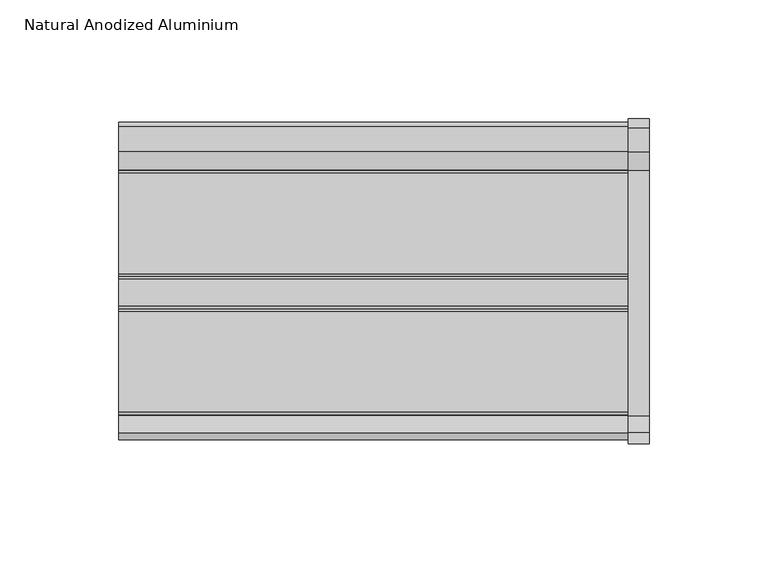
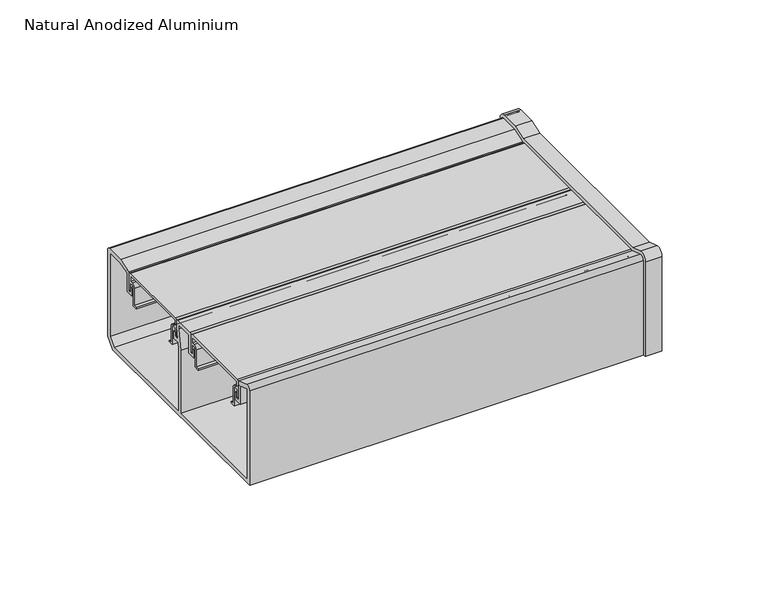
"""IFC4 building model written with IfcOpenShell, lengths in millimetres: proxy geometry, Electrical_Installations_Hager_GBA-Flat-Lid-End-Cap : Natural Anodized Aluminium."""

from ifc_helpers import new_model, si_unit, point, frame, frame_2d, origin, place, context, project, spatial, polyline, circle_curve, trimmed, segment, composite_curve, outline, extrude, source, transform, mapped, element, save
from ifc_brep_helpers import plane_surface, cylinder_surface, revolved_surface, advanced_brep


def natural_anodized_aluminium_06e3204e(model_context):
    return source(origin(), model_context, "Body", "SolidModel", [
        extrude(outline(composite_curve([segment(trimmed(circle_curve(frame_2d((-49.8914345, 39.6343363)), 5.8656637), [point((-55.5085432, 41.3237445))], [point((-49.8914345, 45.5))], False, "CARTESIAN"), True, "CONTINUOUS"), segment(polyline([(-49.8914345, 45.5), (43.4631366, 45.5)]), True, "CONTINUOUS"), segment(trimmed(circle_curve(frame_2d((43.4631366, 39.5252885)), 5.9747115), [point((43.4631366, 45.5))], [point((49.1782923, 41.2671763))], False, "CARTESIAN"), True, "CONTINUOUS"), segment(trimmed(circle_curve(frame_2d((-128.3197107, -12.8313689)), 185.5591379), [point((49.1782923, 41.2671763))], [point((56.7151603, 1.1074319))], False, "CARTESIAN"), True, "CONTINUOUS"), segment(trimmed(circle_curve(frame_2d((55.6880142, 1.0300563)), 1.0300563), [point((56.7151603, 1.1074319))], [point((55.6880142, 0.0))], False, "CARTESIAN"), True, "CONTINUOUS"), segment(polyline([(55.6880142, 0.0), (-62.1861095, 0.0)]), True, "CONTINUOUS"), segment(trimmed(circle_curve(frame_2d((-62.1861095, 0.9434111)), 0.9434111), [point((-62.1861095, 0.0))], [point((-63.1263922, 1.0201774))], False, "CARTESIAN"), True, "CONTINUOUS"), segment(trimmed(circle_curve(frame_2d((131.2639828, -14.8501783)), 195.0371403), [point((-63.1263922, 1.0201774))], [point((-55.5085432, 41.3237445))], False, "CARTESIAN"), True, "CONTINUOUS")], self_intersect=False)), frame((217.0009036, 0.0, 0.0), z_axis=(1.0, 0.0, 0.0), x_axis=(0.0, 1.0, 0.0)), (0.0, 0.0, 1.0), 5.5),
        advanced_brep(
        [(223.661619, 68.3826134, 5.0), (223.661619, 68.3826134, 54.4464817), (223.661619, 64.629095, 58.2), (223.661619, 54.3382065, 58.2), (223.661619, 46.6439977, 55.7), (223.661619, -56.7371553, 55.7), (223.661619, -63.8534471, 58.0122234), (223.661619, -68.7173866, 54.4783645), (223.661619, -68.7173866, 0.0), (223.661619, -67.2173866, 0.0), (223.661619, -67.2173866, 54.4740947), (223.661619, -64.3129118, 56.5843192), (223.661619, -56.974732, 54.2), (223.661619, 46.8815743, 54.2), (223.661619, 54.5757832, 56.7), (223.661619, 64.676444, 56.7), (223.661619, 66.8826134, 54.4938306), (223.661619, 66.8826134, 5.2469728), (223.661619, 61.6356406, 0.0), (223.661619, 63.3826134, 0.0), (214.661619, 68.3826134, 5.0), (214.661619, 63.3826134, 0.0), (214.661619, -68.7173866, 0.0), (214.661619, -68.7173866, 54.4783645), (214.661619, -63.8534471, 58.0122234), (214.661619, -56.7371553, 55.7), (214.661619, 46.6439977, 55.7), (214.661619, 54.3382065, 58.2), (214.661619, 64.629095, 58.2), (214.661619, 68.3826134, 54.4464817), (217.0009036, 68.3826134, 5.0), (217.0009036, 68.3826134, 54.4464817), (217.0009036, 64.629095, 58.2), (217.0009036, 54.3382065, 58.2), (217.0009036, 46.6439977, 55.7), (217.0009036, -56.7371553, 55.7), (217.0009036, -63.8534471, 58.0122234), (217.0009036, -68.7173866, 54.4783645), (217.0009036, 61.6356406, 0.0), (217.0009036, -67.2173866, 0.0), (217.0009036, -67.2173866, 54.4740947), (217.0009036, -64.3129118, 56.5843192), (217.0009036, -56.974732, 54.2), (217.0009036, 46.8815743, 54.2), (217.0009036, 54.5757832, 56.7), (217.0009036, 64.676444, 56.7), (217.0009036, 66.8826134, 54.4938306), (217.0009036, 66.8826134, 5.2469728)],
        [
            (0, 1),
            (1, 2, circle_curve(frame((223.661619, 64.629095, 54.4464817), z_axis=(1.0, 0.0, 0.0), x_axis=(0.0, -1.0, 0.0)), 3.7535183)),
            (2, 3),
            (3, 4),
            (4, 5),
            (5, 6),
            (6, 7, circle_curve(frame((223.661619, -65.0016675, 54.4783645), z_axis=(1.0, 0.0, 0.0), x_axis=(0.0, -1.0, 0.0)), 3.7157191)),
            (7, 8),
            (8, 9),
            (9, 10),
            (10, 11, circle_curve(frame((223.661619, -64.9985653, 54.4740947), z_axis=(-1.0, 0.0, 0.0), x_axis=(0.0, -1.0, 0.0)), 2.2188213)),
            (11, 12),
            (12, 13),
            (13, 14),
            (14, 15),
            (15, 16, circle_curve(frame((223.661619, 64.676444, 54.4938306), z_axis=(-1.0, 0.0, 0.0), x_axis=(0.0, -1.0, 0.0)), 2.2061694)),
            (16, 17),
            (17, 18),
            (18, 19),
            (19, 0),
            (20, 21),
            (21, 22),
            (22, 23),
            (23, 24, circle_curve(frame((214.661619, -65.0016675, 54.4783645), z_axis=(-1.0, 0.0, 0.0), x_axis=(0.0, -1.0, 0.0)), 3.7157191)),
            (24, 25),
            (25, 26),
            (26, 27),
            (27, 28),
            (28, 29, circle_curve(frame((214.661619, 64.629095, 54.4464817), z_axis=(-1.0, 0.0, 0.0), x_axis=(0.0, -1.0, 0.0)), 3.7535183)),
            (29, 20),
            (0, 30),
            (30, 20),
            (29, 31),
            (31, 1),
            (28, 32),
            (32, 2),
            (27, 33),
            (33, 3),
            (26, 34),
            (34, 4),
            (25, 35),
            (35, 5),
            (24, 36),
            (36, 6),
            (23, 37),
            (37, 7),
            (22, 8),
            (21, 19),
            (18, 38),
            (38, 39),
            (39, 9),
            (39, 40),
            (40, 10),
            (40, 41, circle_curve(frame((217.0009036, -64.9985653, 54.4740947), z_axis=(-1.0, 0.0, 0.0), x_axis=(0.0, -1.0, 0.0)), 2.2188213)),
            (41, 11),
            (41, 42),
            (42, 12),
            (42, 43),
            (43, 13),
            (43, 44),
            (44, 14),
            (44, 45),
            (45, 15),
            (45, 46, circle_curve(frame((217.0009036, 64.676444, 54.4938306), z_axis=(-1.0, 0.0, 0.0), x_axis=(0.0, -1.0, 0.0)), 2.2061694)),
            (46, 16),
            (46, 47),
            (47, 17),
            (47, 38),
        ],
        [
            plane_surface(frame((223.661619, 0.0, 0.0), z_axis=(1.0, 0.0, 0.0), x_axis=(0.0, 0.0, 1.0))),
            plane_surface(frame((214.661619, 0.0, 0.0), z_axis=(-1.0, 0.0, 0.0), x_axis=(0.0, 0.0, 1.0))),
            plane_surface(frame((223.661619, 68.3826134, 5.0), z_axis=(0.0, 1.0, 0.0), x_axis=(-1.0, 0.0, 0.0))),
            cylinder_surface(frame((223.661619, 64.629095, 54.4464817), z_axis=(1.0, 0.0, 0.0), x_axis=(0.0, -1.0, 0.0)), 3.7535183),
            plane_surface(frame((223.661619, 64.629095, 58.2), z_axis=(0.0, 0.0, 1.0), x_axis=(-1.0, 0.0, 0.0))),
            plane_surface(frame((223.661619, 54.3382065, 58.2), z_axis=(0.0, -0.30901699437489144, 0.9510565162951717), x_axis=(-1.0, 0.0, 0.0))),
            plane_surface(frame((223.661619, 46.6439977, 55.7), z_axis=(0.0, 0.0, 1.0), x_axis=(-1.0, 0.0, 0.0))),
            plane_surface(frame((223.661619, -56.7371553, 55.7), z_axis=(0.0, 0.30901699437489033, 0.9510565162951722), x_axis=(-1.0, 0.0, 0.0))),
            cylinder_surface(frame((223.661619, -65.0016675, 54.4783645), z_axis=(1.0, 0.0, 0.0), x_axis=(0.0, -1.0, 0.0)), 3.7157191),
            plane_surface(frame((223.661619, -68.7173866, 54.4783645), z_axis=(0.0, -1.0, 0.0), x_axis=(-1.0, 0.0, 0.0))),
            plane_surface(frame((223.661619, -68.7173866, 0.0), z_axis=(0.0, 0.0, -1.0), x_axis=(-1.0, 0.0, 0.0))),
            plane_surface(frame((223.661619, -67.2173866, 0.0), z_axis=(0.0, 1.0, 0.0), x_axis=(-1.0, 0.0, 0.0))),
            revolved_surface(polyline([(217.0009036, -67.2173866, 54.4740947), (223.661619, -67.2173866, 54.4740947)]), (223.661619, -64.9985653, 54.4740947), (-1.0, 0.0, 0.0)),
            plane_surface(frame((223.661619, -64.3129118, 56.5843192), z_axis=(0.0, -0.3090169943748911, -0.951056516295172), x_axis=(-1.0, 0.0, 0.0))),
            plane_surface(frame((223.661619, -56.974732, 54.2), z_axis=(0.0, 0.0, -1.0), x_axis=(-1.0, 0.0, 0.0))),
            plane_surface(frame((223.661619, 46.8815743, 54.2), z_axis=(0.0, 0.30901699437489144, -0.9510565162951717), x_axis=(-1.0, 0.0, 0.0))),
            plane_surface(frame((223.661619, 54.5757832, 56.7), z_axis=(0.0, 0.0, -1.0), x_axis=(-1.0, 0.0, 0.0))),
            revolved_surface(polyline([(217.0009036, 62.4702746, 54.4938306), (223.661619, 62.4702746, 54.4938306)]), (223.661619, 64.676444, 54.4938306), (-1.0, 0.0, 0.0)),
            plane_surface(frame((223.661619, 66.8826134, 54.4938306), z_axis=(0.0, -1.0, 0.0), x_axis=(-1.0, 0.0, 0.0))),
            plane_surface(frame((223.661619, 66.8826134, 5.2469728), z_axis=(0.0, -0.7071067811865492, 0.7071067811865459), x_axis=(-1.0, 0.0, 0.0))),
            plane_surface(frame((223.661619, 63.3826134, 0.0), z_axis=(0.0, 0.7071067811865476, -0.7071067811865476), x_axis=(-1.0, 0.0, 0.0))),
            plane_surface(frame((217.0009036, -68.7173866, 54.4783645), z_axis=(1.0, 0.0, 0.0), x_axis=(0.0, 0.0, -1.0))),
        ],
        [
            (0, [[1, 2, 3, 4, 5, 6, 7, 8, 9, 10, 11, 12, 13, 14, 15, 16, 17, 18, 19, 20]]),
            (1, [[21, 22, 23, 24, 25, 26, 27, 28, 29, 30]]),
            (2, [[-1, 31, 32, -30, 33, 34]]),
            (3, [[-2, -34, -33, -29, 35, 36]]),
            (4, [[-3, -36, -35, -28, 37, 38]]),
            (5, [[-4, -38, -37, -27, 39, 40]]),
            (6, [[-5, -40, -39, -26, 41, 42]]),
            (7, [[-6, -42, -41, -25, 43, 44]]),
            (8, [[-7, -44, -43, -24, 45, 46]]),
            (9, [[47, -8, -46, -45, -23]]),
            (10, [[-9, -47, -22, 48, -19, 49, 50, 51]]),
            (11, [[-10, -51, 52, 53]]),
            (12, [[-11, -53, 54, 55]]),
            (13, [[-12, -55, 56, 57]]),
            (14, [[-13, -57, 58, 59]]),
            (15, [[-14, -59, 60, 61]]),
            (16, [[-15, -61, 62, 63]]),
            (17, [[-16, -63, 64, 65]]),
            (18, [[-17, -65, 66, 67]]),
            (19, [[-18, -67, 68, -49]]),
            (20, [[-20, -48, -21, -32, -31]]),
            (21, [[-50, -68, -66, -64, -62, -60, -58, -56, -54, -52]]),
        ],
    ),
        extrude(outline(composite_curve([segment(polyline([(-64.6976563, 54.0894343), (-64.6976563, 2.0), (-2.2476563, 2.0), (-2.2476563, 38.3324137), (-0.2476563, 49.6749773), (-0.2476563, 52.0), (-9.8476563, 52.0), (-9.8476563, 41.5012147), (-14.5382813, 41.5012147), (-14.5382813, 45.748101), (-13.5382813, 45.748101), (-13.5382813, 42.9887147), (-11.6476563, 42.9887147), (-11.6476563, 53.0031102)]), True, "CONTINUOUS"), segment(trimmed(circle_curve(frame_2d((-10.6507665, 53.0031102)), 0.9968898), [point((-11.6476563, 53.0031102))], [point((-10.6507665, 54.0))], False, "CARTESIAN"), True, "CONTINUOUS"), segment(polyline([(-10.6507665, 54.0), (0.7441474, 54.0)]), True, "CONTINUOUS"), segment(trimmed(circle_curve(frame_2d((0.7441474, 52.9918037)), 1.0081963), [point((0.7441474, 54.0))], [point((1.7523437, 52.9918037))], False, "CARTESIAN"), True, "CONTINUOUS"), segment(polyline([(1.7523437, 52.9918037), (1.7523437, 49.5), (0.6591165, 43.3), (3.2523437, 43.3), (3.2523437, 45.7537431), (4.2523437, 45.7537431), (4.2523437, 41.5), (0.3417279, 41.5), (-0.2476563, 38.1574364), (-0.2476563, 2.0), (60.5496526, 2.0), (64.5023437, 5.9526912), (64.5023437, 54.2), (54.8614746, 54.2), (48.5523437, 52.1500391), (48.5523437, 41.5), (44.2523437, 41.5), (44.2523437, 45.7556921), (45.2523437, 45.7556921), (45.2523437, 42.9887147), (46.7523437, 42.9887147), (46.7523437, 53.9835468), (54.4971904, 56.5), (64.8989144, 56.5)]), True, "CONTINUOUS"), segment(trimmed(circle_curve(frame_2d((64.8989144, 54.5965707)), 1.9034293), [point((64.8989144, 56.5))], [point((66.8023437, 54.5965707))], False, "CARTESIAN"), True, "CONTINUOUS"), segment(polyline([(66.8023437, 54.5965707), (66.8023437, 5.0), (61.8023437, 0.0), (-66.9976563, 0.0), (-66.9976563, 54.4045249)]), True, "CONTINUOUS"), segment(trimmed(circle_curve(frame_2d((-64.9278927, 54.4045249)), 2.0697636), [point((-66.9976563, 54.4045249))], [point((-64.2989994, 56.3764312))], False, "CARTESIAN"), True, "CONTINUOUS"), segment(polyline([(-64.2989994, 56.3764312), (-56.8429688, 53.998505), (-56.8429688, 42.9887147), (-54.6789063, 42.9887147), (-54.6789063, 45.7565885), (-53.6789063, 45.7565885), (-53.6789063, 41.5012147), (-58.4476563, 41.5012147), (-58.4476563, 52.0961433), (-64.6976563, 54.0894343)]), True, "CONTINUOUS")], self_intersect=False)), frame((0.0, 0.0, 0.0), z_axis=(1.0, 0.0, 0.0), x_axis=(0.0, 1.0, 0.0)), (0.0, 0.0, 1.0), 214.661619),
        extrude(outline(composite_curve([segment(polyline([(-13.1613464, 52.5816445), (-55.0613464, 52.5816445), (-55.0613464, 49.2816445), (-53.7229555, 49.2816445)]), True, "CONTINUOUS"), segment(trimmed(circle_curve(frame_2d((-53.7229555, 47.1700354)), 2.1116091), [point((-53.7229555, 49.2816445))], [point((-51.6113464, 47.1700354))], False, "CARTESIAN"), True, "CONTINUOUS"), segment(polyline([(-51.6113464, 47.1700354), (-51.6113464, 37.6816445), (-49.7113464, 37.6816445), (-49.7113464, 36.8816445), (-52.6113464, 36.8816445), (-52.6113464, 47.3262929)]), True, "CONTINUOUS"), segment(trimmed(circle_curve(frame_2d((-53.566698, 47.3262929)), 0.9553516), [point((-52.6113464, 47.3262929))], [point((-53.566698, 48.2816445))], True, "CARTESIAN"), True, "CONTINUOUS"), segment(polyline([(-53.566698, 48.2816445), (-55.3644879, 48.2816445), (-55.3644879, 43.8012242), (-56.3660339, 43.8012242), (-56.3660339, 53.0900381)]), True, "CONTINUOUS"), segment(trimmed(circle_curve(frame_2d((-55.456072, 53.0900381)), 0.9099619), [point((-56.3660339, 53.0900381))], [point((-55.456072, 54.0))], False, "CARTESIAN"), True, "CONTINUOUS"), segment(polyline([(-55.456072, 54.0), (-12.9820268, 54.0)]), True, "CONTINUOUS"), segment(trimmed(circle_curve(frame_2d((-12.9820268, 52.9918196)), 1.0081804), [point((-12.9820268, 54.0))], [point((-11.9738464, 52.9918196))], False, "CARTESIAN"), True, "CONTINUOUS"), segment(polyline([(-11.9738464, 52.9918196), (-11.9738464, 43.8012242), (-12.858205, 43.8012242), (-12.858205, 48.2816445), (-14.6025892, 48.2816445)]), True, "CONTINUOUS"), segment(trimmed(circle_curve(frame_2d((-14.6025892, 47.2728873)), 1.0087572), [point((-14.6025892, 48.2816445))], [point((-15.6113464, 47.2728873))], True, "CARTESIAN"), True, "CONTINUOUS"), segment(polyline([(-15.6113464, 47.2728873), (-15.6113464, 36.8816445), (-18.5113464, 36.8816445), (-18.5113464, 37.6816445), (-16.6113464, 37.6816445), (-16.6113464, 47.3197896)]), True, "CONTINUOUS"), segment(trimmed(circle_curve(frame_2d((-14.6494915, 47.3197896)), 1.9618549), [point((-16.6113464, 47.3197896))], [point((-14.6494915, 49.2816445))], False, "CARTESIAN"), True, "CONTINUOUS"), segment(polyline([(-14.6494915, 49.2816445), (-13.1613464, 49.2816445), (-13.1613464, 52.5816445)]), True, "CONTINUOUS")], self_intersect=False)), frame((0.0, 0.0, 0.0), z_axis=(1.0, 0.0, 0.0), x_axis=(0.0, 1.0, 0.0)), (0.0, 0.0, 1.0), 214.661619),
        extrude(outline(composite_curve([segment(polyline([(45.1923672, 52.5816445), (3.2923672, 52.5816445), (3.2923672, 49.2816445), (4.6307581, 49.2816445)]), True, "CONTINUOUS"), segment(trimmed(circle_curve(frame_2d((4.6307581, 47.1700354)), 2.1116091), [point((4.6307581, 49.2816445))], [point((6.7423672, 47.1700354))], False, "CARTESIAN"), True, "CONTINUOUS"), segment(polyline([(6.7423672, 47.1700354), (6.7423672, 37.6816445), (8.6423672, 37.6816445), (8.6423672, 36.8816445), (5.7423672, 36.8816445), (5.7423672, 47.3262929)]), True, "CONTINUOUS"), segment(trimmed(circle_curve(frame_2d((4.7870156, 47.3262929)), 0.9553516), [point((5.7423672, 47.3262929))], [point((4.7870156, 48.2816445))], True, "CARTESIAN"), True, "CONTINUOUS"), segment(polyline([(4.7870156, 48.2816445), (2.9892258, 48.2816445), (2.9892258, 43.8231023), (1.9876797, 43.8231023), (1.9876797, 53.0900381)]), True, "CONTINUOUS"), segment(trimmed(circle_curve(frame_2d((2.8976417, 53.0900381)), 0.9099619), [point((1.9876797, 53.0900381))], [point((2.8976417, 54.0))], False, "CARTESIAN"), True, "CONTINUOUS"), segment(polyline([(2.8976417, 54.0), (45.3716869, 54.0)]), True, "CONTINUOUS"), segment(trimmed(circle_curve(frame_2d((45.3716869, 52.9918196)), 1.0081804), [point((45.3716869, 54.0))], [point((46.3798672, 52.9918196))], False, "CARTESIAN"), True, "CONTINUOUS"), segment(polyline([(46.3798672, 52.9918196), (46.3798672, 43.9733035), (45.4955087, 43.9733035), (45.4955087, 48.2816445), (43.7511244, 48.2816445)]), True, "CONTINUOUS"), segment(trimmed(circle_curve(frame_2d((43.7511244, 47.2728873)), 1.0087572), [point((43.7511244, 48.2816445))], [point((42.7423672, 47.2728873))], True, "CARTESIAN"), True, "CONTINUOUS"), segment(polyline([(42.7423672, 47.2728873), (42.7423672, 36.8816445), (39.8423672, 36.8816445), (39.8423672, 37.6816445), (41.7423672, 37.6816445), (41.7423672, 47.3197896)]), True, "CONTINUOUS"), segment(trimmed(circle_curve(frame_2d((43.7042221, 47.3197896)), 1.9618549), [point((41.7423672, 47.3197896))], [point((43.7042221, 49.2816445))], False, "CARTESIAN"), True, "CONTINUOUS"), segment(polyline([(43.7042221, 49.2816445), (45.1923672, 49.2816445), (45.1923672, 52.5816445)]), True, "CONTINUOUS")], self_intersect=False)), frame((0.0, 0.0, 0.0), z_axis=(1.0, 0.0, 0.0), x_axis=(0.0, 1.0, 0.0)), (0.0, 0.0, 1.0), 214.661619),
    ])


if __name__ == "__main__":
    model = new_model("IFC4")
    model_context = context("Model", 3, world=origin())
    ifc_project = project(units=[si_unit("LENGTHUNIT", "METRE", prefix="MILLI")], contexts=[model_context])
    site = spatial("IfcSite", under=ifc_project)
    building = spatial("IfcBuilding", under=site)
    placement = place(None, origin())
    natural_anodized_aluminium_shape = natural_anodized_aluminium_06e3204e(model_context)
    element("IfcBuildingElementProxy", 1, Name="Electrical_Installations_Hager_GBA-Flat-Lid-End-Cap : Natural Anodized Aluminium", ObjectType="Electrical_Installations_Hager_GBA-Flat-Lid-End-Cap : Natural Anodized Aluminium", at=placement, inside=building, context=model_context, shape_type="MappedRepresentation", body=[
        mapped(natural_anodized_aluminium_shape, transform((0.0, 0.0, 0.0), x_axis=(1.0, 0.0, 0.0), y_axis=(0.0, 1.0, 0.0), z_axis=(0.0, 0.0, 1.0))),
    ])
    save(model, "model.ifc")
